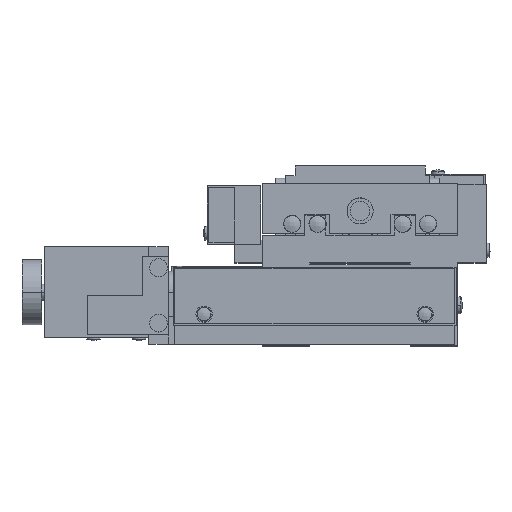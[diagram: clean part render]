
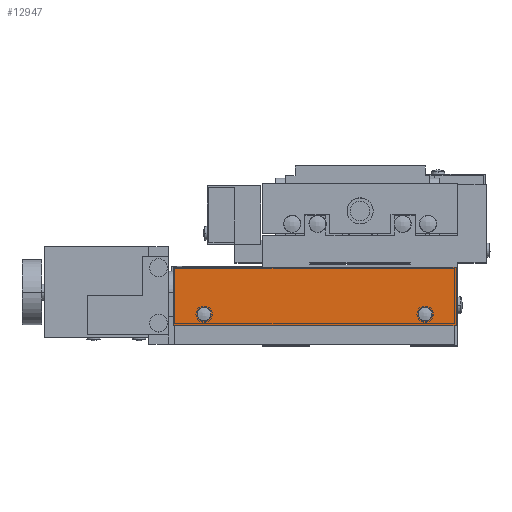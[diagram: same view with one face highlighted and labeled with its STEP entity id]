
A CAD part, top view. The second image highlights one B-rep face of the part: STEP entity #12947.
In plain terms, the highlighted planar face has unit normal (0, 0, 1) as drawn and (0, -1, 0) by its records, which use the part's own axes.
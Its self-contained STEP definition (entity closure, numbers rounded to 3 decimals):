
#304 = EDGE_LOOP ( 'NONE', ( #22016, #13945 ) ) ;
#520 = VERTEX_POINT ( 'NONE', #3524 ) ;
#586 = DIRECTION ( 'NONE',  ( -1., 0., 0. ) ) ;
#736 = DIRECTION ( 'NONE',  ( 0., -1., 0. ) ) ;
#739 = CARTESIAN_POINT ( 'NONE',  ( 17.85, -47., 9.7 ) ) ;
#778 = EDGE_LOOP ( 'NONE', ( #20210, #25469, #10870, #21434 ) ) ;
#887 = LINE ( 'NONE', #25158, #21467 ) ;
#1440 = DIRECTION ( 'NONE',  ( -1., 0., 0. ) ) ;
#1585 = CIRCLE ( 'NONE', #18661, 2.15 ) ;
#2170 = VERTEX_POINT ( 'NONE', #8839 ) ;
#2355 = FACE_BOUND ( 'NONE', #5221, .T. ) ;
#2564 = LINE ( 'NONE', #17600, #22547 ) ;
#3361 = PLANE ( 'NONE',  #6969 ) ;
#3524 = CARTESIAN_POINT ( 'NONE',  ( -57.5, -47., 6.2 ) ) ;
#3770 = EDGE_CURVE ( 'NONE', #2170, #24854, #6781, .T. ) ;
#4200 = EDGE_CURVE ( 'NONE', #24854, #2170, #20478, .T. ) ;
#4741 = EDGE_CURVE ( 'NONE', #20176, #520, #14454, .T. ) ;
#5221 = EDGE_LOOP ( 'NONE', ( #7258, #15731 ) ) ;
#6639 = CARTESIAN_POINT ( 'NONE',  ( -57.5, -47., 6.2 ) ) ;
#6781 = CIRCLE ( 'NONE', #18274, 2.15 ) ;
#6969 = AXIS2_PLACEMENT_3D ( 'NONE', #9386, #13374, #1440 ) ;
#7258 = ORIENTED_EDGE ( 'NONE', *, *, #8473, .F. ) ;
#7825 = EDGE_CURVE ( 'NONE', #10769, #20176, #19314, .T. ) ;
#8473 = EDGE_CURVE ( 'NONE', #23509, #14768, #19292, .T. ) ;
#8642 = DIRECTION ( 'NONE',  ( 0., -1., 0. ) ) ;
#8839 = CARTESIAN_POINT ( 'NONE',  ( 22.15, -47., 9.7 ) ) ;
#9195 = CARTESIAN_POINT ( 'NONE',  ( 29.5, -47., 24.2 ) ) ;
#9253 = AXIS2_PLACEMENT_3D ( 'NONE', #20595, #8642, #22598 ) ;
#9386 = CARTESIAN_POINT ( 'NONE',  ( 29.5, -47., 6.2 ) ) ;
#10427 = CARTESIAN_POINT ( 'NONE',  ( -57.5, -47., 24.2 ) ) ;
#10769 = VERTEX_POINT ( 'NONE', #9195 ) ;
#10870 = ORIENTED_EDGE ( 'NONE', *, *, #20759, .F. ) ;
#10991 = DIRECTION ( 'NONE',  ( -1., 0., 0. ) ) ;
#11084 = CARTESIAN_POINT ( 'NONE',  ( -48., -47., 9.7 ) ) ;
#11214 = DIRECTION ( 'NONE',  ( 0., 0., -1. ) ) ;
#12518 = DIRECTION ( 'NONE',  ( 0., -1., 0. ) ) ;
#12678 = CARTESIAN_POINT ( 'NONE',  ( 20., -47., 9.7 ) ) ;
#12928 = FACE_BOUND ( 'NONE', #304, .T. ) ;
#12947 = ADVANCED_FACE ( 'NONE', ( #2355, #22926, #12928 ), #3361, .F. ) ;
#13061 = DIRECTION ( 'NONE',  ( -1., 0., 0. ) ) ;
#13374 = DIRECTION ( 'NONE',  ( 0., 1., 0. ) ) ;
#13689 = DIRECTION ( 'NONE',  ( -1., 0., 0. ) ) ;
#13945 = ORIENTED_EDGE ( 'NONE', *, *, #4200, .F. ) ;
#14454 = LINE ( 'NONE', #6639, #19086 ) ;
#14675 = VECTOR ( 'NONE', #10991, 1000. ) ;
#14692 = DIRECTION ( 'NONE',  ( -1., 0., 0. ) ) ;
#14768 = VERTEX_POINT ( 'NONE', #20853 ) ;
#15018 = EDGE_CURVE ( 'NONE', #23584, #520, #2564, .T. ) ;
#15731 = ORIENTED_EDGE ( 'NONE', *, *, #15964, .F. ) ;
#15964 = EDGE_CURVE ( 'NONE', #14768, #23509, #1585, .T. ) ;
#16562 = DIRECTION ( 'NONE',  ( 0., 0., -1. ) ) ;
#17600 = CARTESIAN_POINT ( 'NONE',  ( 29.5, -47., 6.2 ) ) ;
#17815 = CARTESIAN_POINT ( 'NONE',  ( 29.5, -47., 6.2 ) ) ;
#18274 = AXIS2_PLACEMENT_3D ( 'NONE', #12678, #736, #14692 ) ;
#18661 = AXIS2_PLACEMENT_3D ( 'NONE', #11084, #25027, #13061 ) ;
#19086 = VECTOR ( 'NONE', #16562, 1000. ) ;
#19292 = CIRCLE ( 'NONE', #24295, 2.15 ) ;
#19314 = LINE ( 'NONE', #22912, #14675 ) ;
#20176 = VERTEX_POINT ( 'NONE', #10427 ) ;
#20210 = ORIENTED_EDGE ( 'NONE', *, *, #4741, .T. ) ;
#20478 = CIRCLE ( 'NONE', #9253, 2.15 ) ;
#20595 = CARTESIAN_POINT ( 'NONE',  ( 20., -47., 9.7 ) ) ;
#20759 = EDGE_CURVE ( 'NONE', #10769, #23584, #887, .T. ) ;
#20853 = CARTESIAN_POINT ( 'NONE',  ( -50.15, -47., 9.7 ) ) ;
#21434 = ORIENTED_EDGE ( 'NONE', *, *, #7825, .T. ) ;
#21467 = VECTOR ( 'NONE', #11214, 1000. ) ;
#22016 = ORIENTED_EDGE ( 'NONE', *, *, #3770, .F. ) ;
#22547 = VECTOR ( 'NONE', #13689, 1000. ) ;
#22598 = DIRECTION ( 'NONE',  ( -1., 0., 0. ) ) ;
#22912 = CARTESIAN_POINT ( 'NONE',  ( 29.5, -47., 24.2 ) ) ;
#22926 = FACE_OUTER_BOUND ( 'NONE', #778, .T. ) ;
#23509 = VERTEX_POINT ( 'NONE', #25596 ) ;
#23584 = VERTEX_POINT ( 'NONE', #17815 ) ;
#24295 = AXIS2_PLACEMENT_3D ( 'NONE', #24465, #12518, #586 ) ;
#24465 = CARTESIAN_POINT ( 'NONE',  ( -48., -47., 9.7 ) ) ;
#24854 = VERTEX_POINT ( 'NONE', #739 ) ;
#25027 = DIRECTION ( 'NONE',  ( 0., -1., 0. ) ) ;
#25158 = CARTESIAN_POINT ( 'NONE',  ( 29.5, -47., 6.2 ) ) ;
#25469 = ORIENTED_EDGE ( 'NONE', *, *, #15018, .F. ) ;
#25596 = CARTESIAN_POINT ( 'NONE',  ( -45.85, -47., 9.7 ) ) ;
